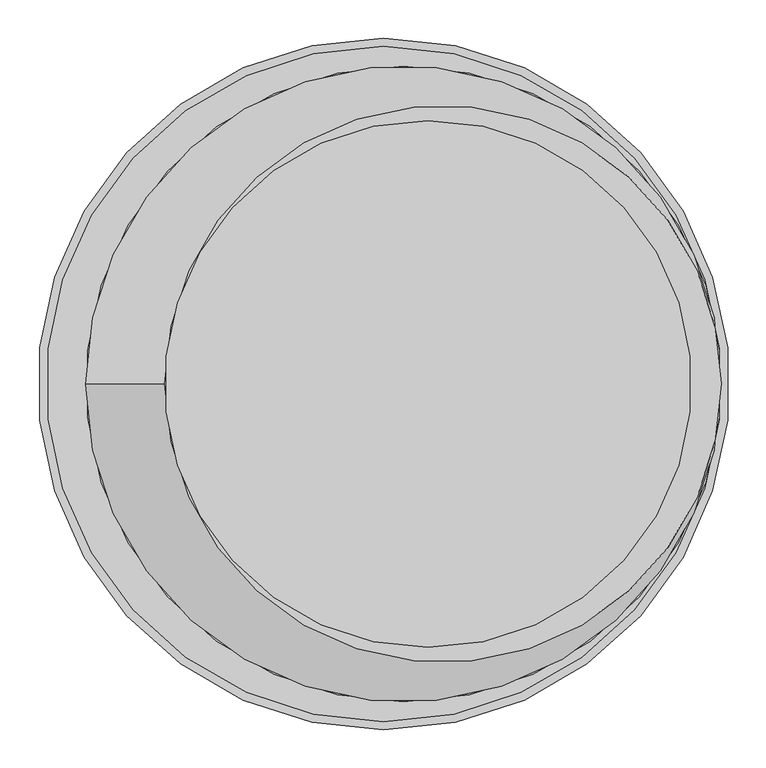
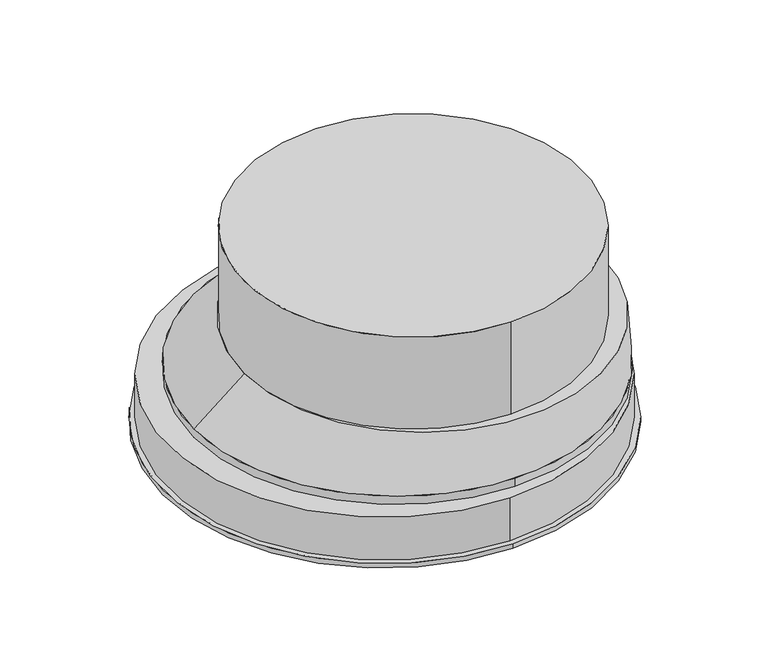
"""IFC4 building model written with IfcOpenShell, lengths in millimetres: valve geometry, Pipelife - Studnia PRO - Nasada redukcyjna 800 : 800/630 + łącznik 630."""

from ifc_helpers import new_model, si_unit, point, frame, frame_2d, origin, place, context, project, spatial, polyline, circle_curve, trimmed, segment, composite_curve, outline, extrude, source, transform, mapped, element, save
from ifc_brep_helpers import plane_surface, cylinder_surface, revolved_surface, spline_surface, advanced_brep


def valve_39b67e25(model_context):
    return source(origin(), model_context, "Body", "SolidModel", [
        advanced_brep(
        [(444.0, 0.0, 205.0), (-288.0, 0.0, 205.0), (444.0, 0.0, 121.0), (-392.0, 0.0, 121.0)],
        [
            (0, 1, circle_curve(frame((78.0, 0.0, 205.0), z_axis=(0.0, 0.0, 1.0), x_axis=(-1.0, 0.0, 0.0)), 366.0)),
            (1, 0, circle_curve(frame((78.0, 0.0, 205.0), z_axis=(0.0, 0.0, 1.0), x_axis=(-1.0, 0.0, 0.0)), 366.0)),
            (2, 3, circle_curve(frame((26.0, 0.0, 121.0), z_axis=(0.0, 0.0, -1.0), x_axis=(-1.0, 0.0, 0.0)), 418.0)),
            (3, 2, circle_curve(frame((26.0, 0.0, 121.0), z_axis=(0.0, 0.0, -1.0), x_axis=(-1.0, 0.0, 0.0)), 418.0)),
            (3, 1),
            (0, 2),
        ],
        [
            plane_surface(frame((78.0, 0.0, 205.0), z_axis=(0.0, 0.0, 1.0), x_axis=(0.0, 1.0, 0.0))),
            plane_surface(frame((26.0, 0.0, 121.0), z_axis=(0.0, 0.0, -1.0), x_axis=(0.0, 1.0, 0.0))),
            spline_surface(2, 1, [[(444.0, 0.0, 121.0), (444.0, 0.0, 205.0)], [(444.0, 418.0, 121.0), (444.0, 366.0, 205.0)], [(26.0, 418.0, 121.0), (78.0, 366.0, 205.0)], [(-392.0, 418.0, 121.0), (-288.0, 366.0, 205.0)], [(-392.0, 0.0, 121.0), (-288.0, 0.0, 205.0)]], [3, 2, 3], [2, 2], [0.0, 1.0, 2.0], [0.0, 1.0], weights=[[1.0, 1.0], [0.7071067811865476, 0.7071067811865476], [1.0, 1.0], [0.7071067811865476, 0.7071067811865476], [1.0, 1.0]]),
            spline_surface(2, 1, [[(-392.0, 0.0, 121.0), (-288.0, 0.0, 205.0)], [(-392.0, -418.0, 121.0), (-288.0, -366.0, 205.0)], [(26.0, -418.0, 121.0), (78.0, -366.0, 205.0)], [(444.0, -418.0, 121.0), (444.0, -366.0, 205.0)], [(444.0, 0.0, 121.0), (444.0, 0.0, 205.0)]], [3, 2, 3], [2, 2], [0.0, 1.0, 2.0], [0.0, 1.0], weights=[[1.0, 1.0], [0.7071067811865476, 0.7071067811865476], [1.0, 1.0], [0.7071067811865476, 0.7071067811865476], [1.0, 1.0]]),
        ],
        [
            (0, [[1, 2]]),
            (1, [[3, 4]]),
            (2, [[-4, 5, -1, 6]]),
            (3, [[-3, -6, -2, -5]]),
        ],
    ),
        extrude(outline(composite_curve([segment(trimmed(circle_curve(frame_2d((26.0, 0.0)), 418.0), [point((26.0, 418.0))], [point((26.0, -418.0))], False, "CARTESIAN"), True, "CONTINUOUS"), segment(trimmed(circle_curve(frame_2d((26.0, 0.0)), 418.0), [point((26.0, -418.0))], [point((26.0, 418.0))], False, "CARTESIAN"), True, "CONTINUOUS")], self_intersect=False)), frame((0.0, 0.0, 103.0), z_axis=(0.0, 0.0, 1.0), x_axis=(1.0, 0.0, 0.0)), (0.0, 0.0, 1.0), 18.0),
        extrude(outline(composite_curve([segment(trimmed(circle_curve(frame_2d((58.5, 0.0)), 346.5), [point((58.5, 346.5))], [point((58.5, -346.5))], False, "CARTESIAN"), True, "CONTINUOUS"), segment(trimmed(circle_curve(frame_2d((58.5, 0.0)), 346.5), [point((58.5, -346.5))], [point((58.5, 346.5))], False, "CARTESIAN"), True, "CONTINUOUS")], self_intersect=False)), frame((0.0, 0.0, 205.0), z_axis=(0.0, 0.0, 1.0), x_axis=(1.0, 0.0, 0.0)), (0.0, 0.0, 1.0), 200.0),
        advanced_brep(
        [(0.0, 455.0, 10.0), (0.0, -455.0, 10.0), (0.0, -444.0, 10.0), (0.0, 444.0, 10.0), (0.0, 455.0, 0.0), (0.0, -455.0, 0.0), (0.0, 434.0, 0.0), (0.0, -434.0, 0.0), (0.0, 444.0, 103.0), (0.0, -444.0, 103.0), (0.0, 434.0, 90.0), (0.0, -434.0, 90.0)],
        [
            (0, 1, circle_curve(frame((0.0, 0.0, 10.0), z_axis=(0.0, 0.0, 1.0), x_axis=(0.0, -1.0, 0.0)), 455.0)),
            (1, 0, circle_curve(frame((0.0, 0.0, 10.0), z_axis=(0.0, 0.0, 1.0), x_axis=(0.0, -1.0, 0.0)), 455.0)),
            (2, 3, circle_curve(frame((0.0, 0.0, 10.0), z_axis=(0.0, 0.0, -1.0), x_axis=(0.0, -1.0, 0.0)), 444.0)),
            (3, 2, circle_curve(frame((0.0, 0.0, 10.0), z_axis=(0.0, 0.0, -1.0), x_axis=(0.0, -1.0, 0.0)), 444.0)),
            (4, 5, circle_curve(frame((0.0, 0.0, 0.0), z_axis=(0.0, 0.0, -1.0), x_axis=(0.0, -1.0, 0.0)), 455.0)),
            (5, 4, circle_curve(frame((0.0, 0.0, 0.0), z_axis=(0.0, 0.0, -1.0), x_axis=(0.0, -1.0, 0.0)), 455.0)),
            (6, 7, circle_curve(frame((0.0, 0.0, 0.0), z_axis=(0.0, 0.0, 1.0), x_axis=(0.0, -1.0, 0.0)), 434.0)),
            (7, 6, circle_curve(frame((0.0, 0.0, 0.0), z_axis=(0.0, 0.0, 1.0), x_axis=(0.0, -1.0, 0.0)), 434.0)),
            (0, 4),
            (5, 1),
            (8, 9, circle_curve(frame((0.0, 0.0, 103.0), z_axis=(0.0, 0.0, 1.0), x_axis=(0.0, -1.0, 0.0)), 444.0)),
            (9, 8, circle_curve(frame((0.0, 0.0, 103.0), z_axis=(0.0, 0.0, 1.0), x_axis=(0.0, -1.0, 0.0)), 444.0)),
            (8, 3),
            (2, 9),
            (10, 11, circle_curve(frame((0.0, 0.0, 90.0), z_axis=(0.0, 0.0, -1.0), x_axis=(0.0, -1.0, 0.0)), 434.0)),
            (11, 10, circle_curve(frame((0.0, 0.0, 90.0), z_axis=(0.0, 0.0, -1.0), x_axis=(0.0, -1.0, 0.0)), 434.0)),
            (11, 7),
            (6, 10),
        ],
        [
            plane_surface(frame((0.0, 0.0, 10.0), z_axis=(0.0, 0.0, 1.0), x_axis=(0.0, -1.0, 0.0))),
            plane_surface(frame((0.0, 0.0, 0.0), z_axis=(0.0, 0.0, -1.0), x_axis=(0.0, -1.0, 0.0))),
            cylinder_surface(frame((0.0, 0.0, 10.0), z_axis=(0.0, 0.0, 1.0), x_axis=(0.0, -1.0, 0.0)), 455.0),
            plane_surface(frame((0.0, 0.0, 103.0), z_axis=(0.0, 0.0, 1.0), x_axis=(0.0, -1.0, 0.0))),
            cylinder_surface(frame((0.0, 0.0, 103.0), z_axis=(0.0, 0.0, 1.0), x_axis=(0.0, -1.0, 0.0)), 444.0),
            plane_surface(frame((0.0, 0.0, 90.0), z_axis=(0.0, 0.0, -1.0), x_axis=(0.0, -1.0, 0.0))),
            revolved_surface(polyline([(0.0, -434.0, 90.0), (0.0, -434.0, 0.0)]), (0.0, 0.0, 90.0), (0.0, 0.0, 1.0)),
        ],
        [
            (0, [[1, 2], [3, 4]]),
            (1, [[5, 6], [7, 8]]),
            (2, [[-1, 9, -6, 10]]),
            (2, [[-2, -10, -5, -9]]),
            (3, [[11, 12]]),
            (4, [[-11, 13, -3, 14]]),
            (4, [[-12, -14, -4, -13]]),
            (5, [[15, 16]]),
            (6, [[-16, 17, -7, 18]]),
            (6, [[-15, -18, -8, -17]]),
        ],
    ),
    ])


if __name__ == "__main__":
    model = new_model("IFC4")
    model_context = context("Model", 3, world=origin())
    ifc_project = project(units=[si_unit("LENGTHUNIT", "METRE", prefix="MILLI")], contexts=[model_context])
    site = spatial("IfcSite", under=ifc_project)
    building = spatial("IfcBuilding", under=site)
    placement = place(None, origin())
    valve_shape = valve_39b67e25(model_context)
    element("IfcValve", 1, ObjectType="Pipelife - Studnia PRO - Nasada redukcyjna 800 : 800/630 + łącznik 630", at=placement, inside=building, context=model_context, shape_type="MappedRepresentation", body=[
        mapped(valve_shape, transform((0.0, 0.0, 0.0), x_axis=(1.0, 0.0, 0.0), y_axis=(0.0, 1.0, 0.0), z_axis=(0.0, 0.0, 1.0))),
    ])
    save(model, "model.ifc")
